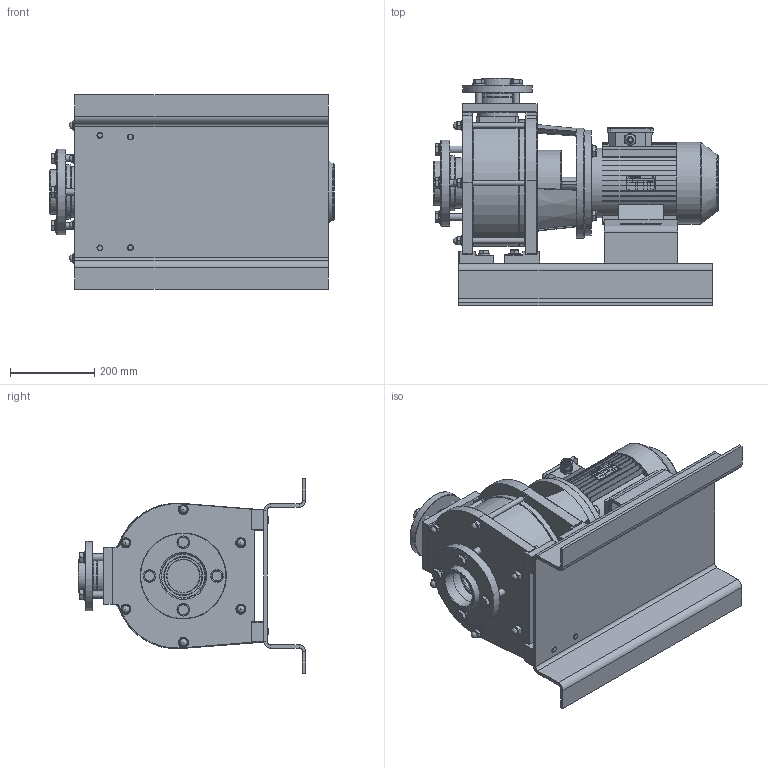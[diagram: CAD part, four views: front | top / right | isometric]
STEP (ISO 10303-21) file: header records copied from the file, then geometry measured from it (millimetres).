
FILE_DESCRIPTION(/* description */ (''),/* implementation_level */ '2;1');
FILE_NAME(/* name */ 'C:\Users\tarpo\OneDrive\Masaüstü\Pompalar Resimler ve Cad Dosyalar\350 BM 90-200-63\PP.350 BM.stp',/* time_stamp */ '2024-07-12T11:52:26+03:00',/* author */ ('tarpo'),/* organization */ (''),/* preprocessor_version */ 'ST-DEVELOPER v18',/* originating_system */ 'Autodesk Inventor 2020',/* authorisation */ '');
FILE_SCHEMA (('CONFIG_CONTROL_DESIGN'));
Products named in the file (1): PP.350 BM_Shrinkwrap_1
Bounding box: 673.8 x 539.5 x 462 mm (x, y, z)
Volume: 27927070.9 mm3; surface area: 3098499.5 mm2
Topology: 65 solids, 65 shells, 2256 faces, 5587 edges, 3496 vertices
Faces by surface type: plane 1252, cylinder 477, cone 293, torus 136, bspline 64, sphere 34
Full cylindrical faces by diameter (mm): 10 x5, 12 x6, 12.1 x6, 13 x6, 14 x4, 16 x16, 17 x10, 17.5 x2, 19.64 x4, 20.6 x2, 21.4 x1, 22.6 x2, 23.4 x2, 24 x14, 28 x5, 30 x12, 50 x2, 63 x1, 70 x1, 77 x2, 78 x1, 80.3 x1, 90 x1, 95 x2, 95.5 x1, 105 x1, 106 x1, 112 x1, 115 x1, 120 x1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
Entity records: 71879 total; most frequent: CARTESIAN_POINT 16239, DIRECTION 11226, ORIENTED_EDGE 11022, EDGE_CURVE 5511, AXIS2_PLACEMENT_3D 4171, VERTEX_POINT 3496, LINE 2884, VECTOR 2884
